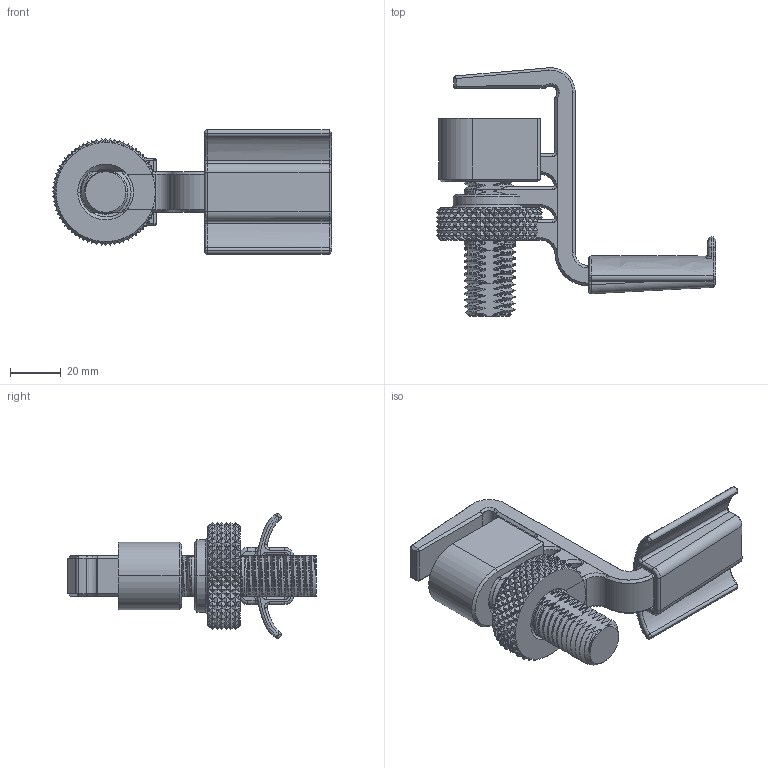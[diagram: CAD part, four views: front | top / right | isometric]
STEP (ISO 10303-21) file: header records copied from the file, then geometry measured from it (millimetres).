
FILE_DESCRIPTION (( 'STEP AP203' ), '1' );
FILE_NAME ('Hanger_ASSY.STEP', '2020-06-18T18:51:20', ( '' ), ( '' ), 'SwSTEP 2.0', 'SolidWorks 2014', '' );
FILE_SCHEMA (( 'CONFIG_CONTROL_DESIGN' ));
Length unit declared in the file: millimetre
Products named in the file (7): Hanger_Body_38-51; Hanger_Body_12-25; Hanger_Nut; Hanger_Basket; Hanger_ASSY; Hanger_Body_25-38; Hanger_Clamp
Assembly tree (6 placements, depth 2):
  Hanger_ASSY
    Hanger_Body_12-25
    Hanger_Basket
    Hanger_Clamp
    Hanger_Nut
    Hanger_Body_25-38
    Hanger_Body_38-51
Bounding box: 110.1 x 97.94 x 49.12 mm (x, y, z)
Volume: 132232.9 mm3; surface area: 55677 mm2
Topology: 6 solids, 6 shells, 1991 faces, 3944 edges, 1940 vertices
Faces by surface type: bspline 1389, cone 232, cylinder 205, plane 144, torus 21
Entity records: 335072 total; most frequent: CARTESIAN_POINT 307013, ORIENTED_EDGE 7836, EDGE_CURVE 3918, DIRECTION 2655, EDGE_LOOP 1996, ADVANCED_FACE 1991, FACE_OUTER_BOUND 1991, VERTEX_POINT 1940
